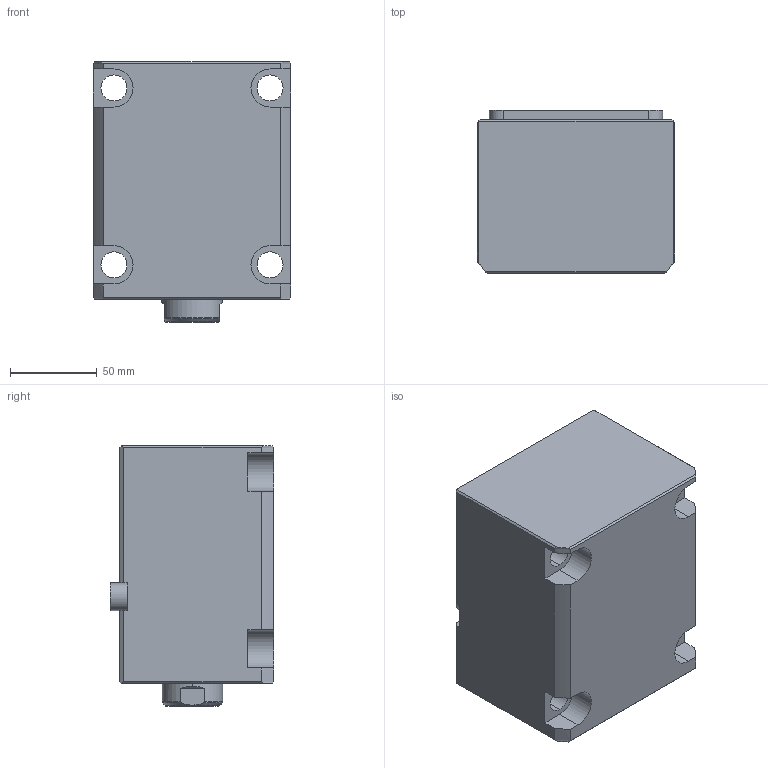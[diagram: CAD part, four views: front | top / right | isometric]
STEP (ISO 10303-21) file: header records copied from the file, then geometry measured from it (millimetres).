
FILE_DESCRIPTION (( 'STEP AP214' ), '1' );
FILE_NAME ('chtb-lam63x70n_asm.STEP', '2018-05-22T03:11:35', ( 'Windows' ), ( 'Microsoft' ), 'SwSTEP 2.0', 'SolidWorks 2015', '' );
FILE_SCHEMA (( 'AUTOMOTIVE_DESIGN' ));
Length unit declared in the file: millimetre
Products named in the file (5): CHTB-LAM63X70NBT; CHTB-LA63PJ; CHTB63X70NHSG; CHTB-63QG; chtb-lam63x70n_asm
Assembly tree (4 placements, depth 2):
  chtb-lam63x70n_asm
    CHTB-63QG
    CHTB63X70NHSG
    CHTB-LA63PJ
    CHTB-LAM63X70NBT
Bounding box: 114 x 94.5 x 150 mm (x, y, z)
Volume: 1164362.1 mm3; surface area: 165083.8 mm2
Topology: 4 solids, 4 shells, 183 faces, 539 edges, 366 vertices
Faces by surface type: cylinder 99, plane 55, bspline 13, cone 8, torus 8
Entity records: 19040 total; most frequent: CARTESIAN_POINT 14352, ORIENTED_EDGE 1066, DIRECTION 788, EDGE_CURVE 533, VERTEX_POINT 366, AXIS2_PLACEMENT_3D 291, VECTOR 206, LINE 206
